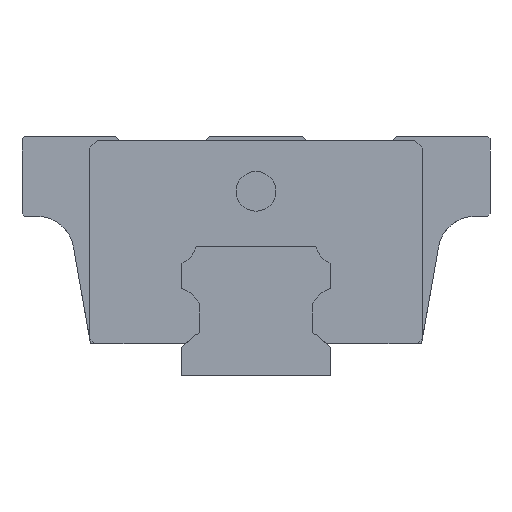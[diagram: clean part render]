
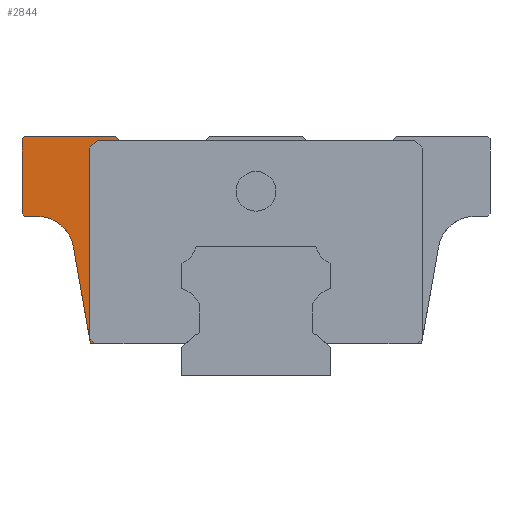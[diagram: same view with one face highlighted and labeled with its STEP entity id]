
A CAD part, left-side view. The second image highlights one B-rep face of the part: STEP entity #2844.
In plain terms, the highlighted planar face has unit normal (-1, 0, 0).
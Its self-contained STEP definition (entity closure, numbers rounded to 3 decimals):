
#6 = VERTEX_POINT ( 'NONE', #3680 ) ;
#45 = CARTESIAN_POINT ( 'NONE',  ( -24., 16.7, 3.7 ) ) ;
#136 = EDGE_LOOP ( 'NONE', ( #5678, #1993, #5081, #5241, #6871, #1434, #1032, #4194, #720, #1168, #1842, #5647, #5926 ) ) ;
#156 = DIRECTION ( 'NONE',  ( 0., 0., 1. ) ) ;
#228 = CARTESIAN_POINT ( 'NONE',  ( -24., 16.7, 22.841 ) ) ;
#272 = VERTEX_POINT ( 'NONE', #2218 ) ;
#275 = FACE_OUTER_BOUND ( 'NONE', #136, .T. ) ;
#436 = CARTESIAN_POINT ( 'NONE',  ( -24., 18.876, 16. ) ) ;
#482 = DIRECTION ( 'NONE',  ( 0., -1., 0. ) ) ;
#510 = VECTOR ( 'NONE', #4842, 1000. ) ;
#594 = AXIS2_PLACEMENT_3D ( 'NONE', #733, #2874, #4038 ) ;
#637 = VECTOR ( 'NONE', #875, 1000. ) ;
#641 = AXIS2_PLACEMENT_3D ( 'NONE', #1884, #5173, #5112 ) ;
#720 = ORIENTED_EDGE ( 'NONE', *, *, #4011, .T. ) ;
#733 = CARTESIAN_POINT ( 'NONE',  ( -24., 0., 14.59 ) ) ;
#875 = DIRECTION ( 'NONE',  ( 0., 0., -1. ) ) ;
#909 = CARTESIAN_POINT ( 'NONE',  ( -24., 23.265, 24. ) ) ;
#917 = CARTESIAN_POINT ( 'NONE',  ( -24., 18.329, 12.901 ) ) ;
#960 = CIRCLE ( 'NONE', #641, 3.75 ) ;
#1031 = EDGE_CURVE ( 'NONE', #6, #1261, #5051, .T. ) ;
#1032 = ORIENTED_EDGE ( 'NONE', *, *, #4976, .T. ) ;
#1096 = LINE ( 'NONE', #5901, #510 ) ;
#1168 = ORIENTED_EDGE ( 'NONE', *, *, #6311, .T. ) ;
#1199 = VERTEX_POINT ( 'NONE', #6519 ) ;
#1244 = EDGE_CURVE ( 'NONE', #4772, #4578, #3250, .T. ) ;
#1261 = VERTEX_POINT ( 'NONE', #2175 ) ;
#1393 = LINE ( 'NONE', #5636, #637 ) ;
#1434 = ORIENTED_EDGE ( 'NONE', *, *, #2799, .T. ) ;
#1472 = EDGE_CURVE ( 'NONE', #1199, #3686, #3106, .T. ) ;
#1482 = DIRECTION ( 'NONE',  ( 0., -0.174, -0.985 ) ) ;
#1514 = VECTOR ( 'NONE', #3642, 1000. ) ;
#1548 = CARTESIAN_POINT ( 'NONE',  ( -24., 16.619, 3.2 ) ) ;
#1571 = CARTESIAN_POINT ( 'NONE',  ( -24., 13.75, 23.583 ) ) ;
#1603 = VERTEX_POINT ( 'NONE', #1571 ) ;
#1703 = EDGE_CURVE ( 'NONE', #1261, #1603, #2274, .T. ) ;
#1842 = ORIENTED_EDGE ( 'NONE', *, *, #1472, .T. ) ;
#1884 = CARTESIAN_POINT ( 'NONE',  ( -24., 22.022, 12.25 ) ) ;
#1963 = CARTESIAN_POINT ( 'NONE',  ( -24., 14.1, 24. ) ) ;
#1993 = ORIENTED_EDGE ( 'NONE', *, *, #3439, .T. ) ;
#2080 = CARTESIAN_POINT ( 'NONE',  ( -24., 16.2, 3.2 ) ) ;
#2175 = CARTESIAN_POINT ( 'NONE',  ( -24., 15.942, 23.583 ) ) ;
#2188 = LINE ( 'NONE', #4304, #3318 ) ;
#2218 = CARTESIAN_POINT ( 'NONE',  ( -24., 23.5, 16.235 ) ) ;
#2270 = VECTOR ( 'NONE', #2672, 1000. ) ;
#2274 = LINE ( 'NONE', #6637, #5409 ) ;
#2404 = DIRECTION ( 'NONE',  ( 0., -1., 0. ) ) ;
#2447 = VECTOR ( 'NONE', #6108, 1000. ) ;
#2542 = VERTEX_POINT ( 'NONE', #4403 ) ;
#2672 = DIRECTION ( 'NONE',  ( 0., 0.643, 0.766 ) ) ;
#2776 = CARTESIAN_POINT ( 'NONE',  ( -24., 13.68, 23.5 ) ) ;
#2799 = EDGE_CURVE ( 'NONE', #1603, #3575, #5894, .T. ) ;
#2844 = ADVANCED_FACE ( 'NONE', ( #275 ), #4487, .T. ) ;
#2874 = DIRECTION ( 'NONE',  ( -1., 0., 0. ) ) ;
#2968 = VECTOR ( 'NONE', #482, 1000. ) ;
#3049 = VECTOR ( 'NONE', #6440, 1000. ) ;
#3106 = LINE ( 'NONE', #3522, #2968 ) ;
#3176 = CARTESIAN_POINT ( 'NONE',  ( -24., 22.022, 16. ) ) ;
#3189 = EDGE_CURVE ( 'NONE', #6327, #6877, #5885, .T. ) ;
#3250 = LINE ( 'NONE', #5858, #4839 ) ;
#3255 = LINE ( 'NONE', #45, #3516 ) ;
#3264 = DIRECTION ( 'NONE',  ( 0., -0.707, -0.707 ) ) ;
#3318 = VECTOR ( 'NONE', #3264, 1000. ) ;
#3439 = EDGE_CURVE ( 'NONE', #4578, #2542, #6669, .T. ) ;
#3516 = VECTOR ( 'NONE', #156, 1000. ) ;
#3522 = CARTESIAN_POINT ( 'NONE',  ( -24., 23.5, 16. ) ) ;
#3575 = VERTEX_POINT ( 'NONE', #1963 ) ;
#3642 = DIRECTION ( 'NONE',  ( 0., 0.707, 0.707 ) ) ;
#3680 = CARTESIAN_POINT ( 'NONE',  ( -24., 16.7, 22.841 ) ) ;
#3686 = VERTEX_POINT ( 'NONE', #3176 ) ;
#4011 = EDGE_CURVE ( 'NONE', #6877, #272, #1393, .T. ) ;
#4038 = DIRECTION ( 'NONE',  ( 0., 0., 1. ) ) ;
#4175 = VECTOR ( 'NONE', #1482, 1000. ) ;
#4194 = ORIENTED_EDGE ( 'NONE', *, *, #3189, .T. ) ;
#4304 = CARTESIAN_POINT ( 'NONE',  ( -24., 1.876, -5.389 ) ) ;
#4403 = CARTESIAN_POINT ( 'NONE',  ( -24., 16.7, 3.7 ) ) ;
#4487 = PLANE ( 'NONE',  #594 ) ;
#4578 = VERTEX_POINT ( 'NONE', #4958 ) ;
#4755 = LINE ( 'NONE', #436, #4175 ) ;
#4772 = VERTEX_POINT ( 'NONE', #1548 ) ;
#4839 = VECTOR ( 'NONE', #5330, 1000. ) ;
#4842 = DIRECTION ( 'NONE',  ( 0., 1., 0. ) ) ;
#4849 = VERTEX_POINT ( 'NONE', #917 ) ;
#4902 = EDGE_CURVE ( 'NONE', #2542, #6, #3255, .T. ) ;
#4958 = CARTESIAN_POINT ( 'NONE',  ( -24., 16.2, 3.2 ) ) ;
#4976 = EDGE_CURVE ( 'NONE', #3575, #6327, #1096, .T. ) ;
#5051 = LINE ( 'NONE', #228, #2447 ) ;
#5081 = ORIENTED_EDGE ( 'NONE', *, *, #4902, .T. ) ;
#5112 = DIRECTION ( 'NONE',  ( 0., 0., 1. ) ) ;
#5173 = DIRECTION ( 'NONE',  ( 1., 0., 0. ) ) ;
#5241 = ORIENTED_EDGE ( 'NONE', *, *, #1031, .T. ) ;
#5330 = DIRECTION ( 'NONE',  ( 0., -1., 0. ) ) ;
#5352 = CARTESIAN_POINT ( 'NONE',  ( -24., 18.676, 28.589 ) ) ;
#5409 = VECTOR ( 'NONE', #2404, 1000. ) ;
#5636 = CARTESIAN_POINT ( 'NONE',  ( -24., 23.5, 24. ) ) ;
#5647 = ORIENTED_EDGE ( 'NONE', *, *, #6652, .T. ) ;
#5678 = ORIENTED_EDGE ( 'NONE', *, *, #1244, .T. ) ;
#5858 = CARTESIAN_POINT ( 'NONE',  ( -24., 14.971, 3.2 ) ) ;
#5885 = LINE ( 'NONE', #5352, #3049 ) ;
#5894 = LINE ( 'NONE', #2776, #2270 ) ;
#5901 = CARTESIAN_POINT ( 'NONE',  ( -24., 14.1, 24. ) ) ;
#5926 = ORIENTED_EDGE ( 'NONE', *, *, #6144, .T. ) ;
#6108 = DIRECTION ( 'NONE',  ( 0., -0.715, 0.699 ) ) ;
#6144 = EDGE_CURVE ( 'NONE', #4849, #4772, #4755, .T. ) ;
#6311 = EDGE_CURVE ( 'NONE', #272, #1199, #2188, .T. ) ;
#6327 = VERTEX_POINT ( 'NONE', #909 ) ;
#6440 = DIRECTION ( 'NONE',  ( 0., 0.707, -0.707 ) ) ;
#6519 = CARTESIAN_POINT ( 'NONE',  ( -24., 23.265, 16. ) ) ;
#6637 = CARTESIAN_POINT ( 'NONE',  ( -24., 15.942, 23.583 ) ) ;
#6652 = EDGE_CURVE ( 'NONE', #3686, #4849, #960, .T. ) ;
#6669 = LINE ( 'NONE', #2080, #1514 ) ;
#6799 = CARTESIAN_POINT ( 'NONE',  ( -24., 23.5, 23.765 ) ) ;
#6871 = ORIENTED_EDGE ( 'NONE', *, *, #1703, .T. ) ;
#6877 = VERTEX_POINT ( 'NONE', #6799 ) ;
